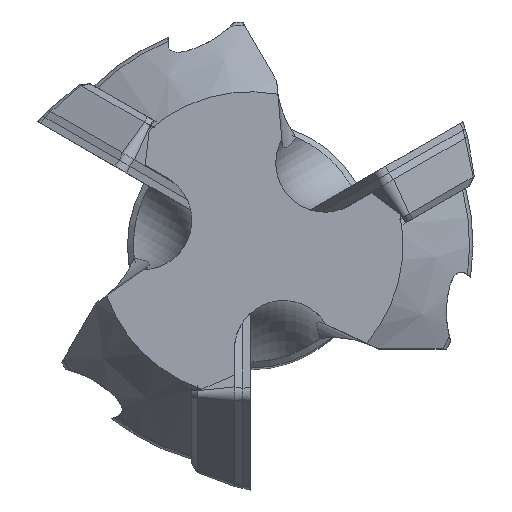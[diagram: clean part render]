
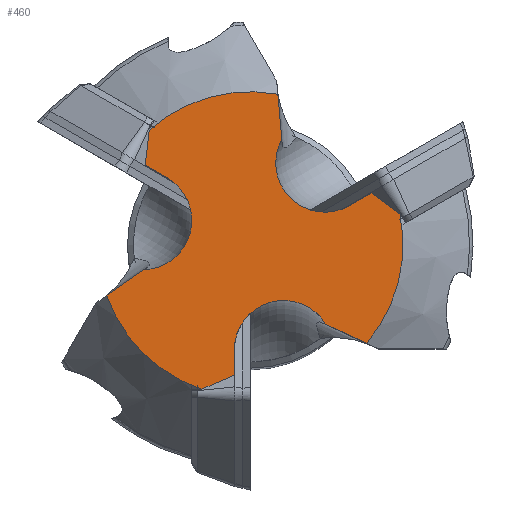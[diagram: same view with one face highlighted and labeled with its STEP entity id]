
A CAD part, top view. The second image highlights one B-rep face of the part: STEP entity #460.
In plain terms, the highlighted planar face has unit normal (0, 0, 1).
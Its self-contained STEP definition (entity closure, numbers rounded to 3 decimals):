
#98=ELLIPSE('',#2763,4.,4.);
#99=ELLIPSE('',#2764,4.,4.);
#100=ELLIPSE('',#2765,4.,4.);
#242=FACE_OUTER_BOUND('',#784,.T.);
#460=ADVANCED_FACE('',(#242),#594,.F.);
#594=PLANE('',#2766);
#660=CIRCLE('',#2730,12.416);
#666=CIRCLE('',#2741,12.416);
#672=CIRCLE('',#2752,12.416);
#784=EDGE_LOOP('',(#1492,#1493,#1494,#1495,#1496,#1497,#1498,#1499,#1500,
#1501,#1502,#1503,#1504,#1505,#1506));
#955=LINE('',#3793,#1121);
#958=LINE('',#3935,#1124);
#961=LINE('',#4080,#1127);
#963=LINE('',#4163,#1129);
#964=LINE('',#4167,#1130);
#965=LINE('',#4169,#1131);
#966=LINE('',#4172,#1132);
#967=LINE('',#4174,#1133);
#968=LINE('',#4177,#1134);
#1121=VECTOR('',#2975,1.);
#1124=VECTOR('',#3000,1.);
#1127=VECTOR('',#3025,1.);
#1129=VECTOR('',#3035,1.);
#1130=VECTOR('',#3038,1.);
#1131=VECTOR('',#3039,1.);
#1132=VECTOR('',#3042,1.);
#1133=VECTOR('',#3043,1.);
#1134=VECTOR('',#3046,1.);
#1492=ORIENTED_EDGE('',*,*,#2393,.T.);
#1493=ORIENTED_EDGE('',*,*,#2394,.T.);
#1494=ORIENTED_EDGE('',*,*,#2359,.T.);
#1495=ORIENTED_EDGE('',*,*,#2343,.F.);
#1496=ORIENTED_EDGE('',*,*,#2395,.T.);
#1497=ORIENTED_EDGE('',*,*,#2396,.T.);
#1498=ORIENTED_EDGE('',*,*,#2397,.T.);
#1499=ORIENTED_EDGE('',*,*,#2385,.T.);
#1500=ORIENTED_EDGE('',*,*,#2369,.F.);
#1501=ORIENTED_EDGE('',*,*,#2398,.T.);
#1502=ORIENTED_EDGE('',*,*,#2399,.T.);
#1503=ORIENTED_EDGE('',*,*,#2400,.T.);
#1504=ORIENTED_EDGE('',*,*,#2333,.T.);
#1505=ORIENTED_EDGE('',*,*,#2317,.F.);
#1506=ORIENTED_EDGE('',*,*,#2401,.T.);
#2052=VERTEX_POINT('',#3692);
#2053=VERTEX_POINT('',#3694);
#2065=VERTEX_POINT('',#3794);
#2074=VERTEX_POINT('',#3834);
#2075=VERTEX_POINT('',#3836);
#2087=VERTEX_POINT('',#3936);
#2096=VERTEX_POINT('',#3976);
#2097=VERTEX_POINT('',#3978);
#2109=VERTEX_POINT('',#4081);
#2112=VERTEX_POINT('',#4164);
#2113=VERTEX_POINT('',#4165);
#2114=VERTEX_POINT('',#4168);
#2115=VERTEX_POINT('',#4170);
#2116=VERTEX_POINT('',#4173);
#2117=VERTEX_POINT('',#4175);
#2317=EDGE_CURVE('',#2052,#2053,#660,.T.);
#2333=EDGE_CURVE('',#2065,#2053,#955,.T.);
#2343=EDGE_CURVE('',#2074,#2075,#666,.T.);
#2359=EDGE_CURVE('',#2087,#2075,#958,.T.);
#2369=EDGE_CURVE('',#2096,#2097,#672,.T.);
#2385=EDGE_CURVE('',#2109,#2097,#961,.T.);
#2393=EDGE_CURVE('',#2112,#2113,#963,.T.);
#2394=EDGE_CURVE('',#2113,#2087,#98,.T.);
#2395=EDGE_CURVE('',#2074,#2114,#964,.T.);
#2396=EDGE_CURVE('',#2114,#2115,#965,.T.);
#2397=EDGE_CURVE('',#2115,#2109,#99,.T.);
#2398=EDGE_CURVE('',#2096,#2116,#966,.T.);
#2399=EDGE_CURVE('',#2116,#2117,#967,.T.);
#2400=EDGE_CURVE('',#2117,#2065,#100,.T.);
#2401=EDGE_CURVE('',#2052,#2112,#968,.T.);
#2730=AXIS2_PLACEMENT_3D('',#3693,#2960,#2961);
#2741=AXIS2_PLACEMENT_3D('',#3835,#2985,#2986);
#2752=AXIS2_PLACEMENT_3D('',#3977,#3010,#3011);
#2763=AXIS2_PLACEMENT_3D('',#4166,#3036,#3037);
#2764=AXIS2_PLACEMENT_3D('',#4171,#3040,#3041);
#2765=AXIS2_PLACEMENT_3D('',#4176,#3044,#3045);
#2766=AXIS2_PLACEMENT_3D('',#4178,#3047,#3048);
#2960=DIRECTION('',(0.,0.,-1.));
#2961=DIRECTION('',(1.,0.,0.));
#2975=DIRECTION('',(-0.087,0.996,0.));
#2985=DIRECTION('',(0.,0.,-1.));
#2986=DIRECTION('',(1.,0.,0.));
#3000=DIRECTION('',(-0.819,-0.574,0.));
#3010=DIRECTION('',(0.,0.,-1.));
#3011=DIRECTION('',(1.,0.,0.));
#3025=DIRECTION('',(0.906,-0.423,0.));
#3035=DIRECTION('',(0.866,-0.5,0.));
#3036=DIRECTION('',(0.,0.,-1.));
#3037=DIRECTION('',(-0.866,0.5,0.));
#3038=DIRECTION('',(0.918,0.397,0.));
#3039=DIRECTION('',(0.,1.,0.));
#3040=DIRECTION('',(0.,0.,-1.));
#3041=DIRECTION('',(0.,-1.,0.));
#3042=DIRECTION('',(-0.803,0.596,0.));
#3043=DIRECTION('',(-0.866,-0.5,0.));
#3044=DIRECTION('',(0.,0.,-1.));
#3045=DIRECTION('',(0.866,0.5,0.));
#3046=DIRECTION('',(-0.115,-0.993,0.));
#3047=DIRECTION('',(0.,0.,-1.));
#3048=DIRECTION('',(1.,0.,0.));
#3692=CARTESIAN_POINT('',(-8.226,9.3,-1.5));
#3693=CARTESIAN_POINT('',(0.,0.,-1.5));
#3694=CARTESIAN_POINT('',(2.238,12.213,-1.5));
#3793=CARTESIAN_POINT('',(3.282,0.287,-1.5));
#3794=CARTESIAN_POINT('',(2.559,8.548,-1.5));
#3834=CARTESIAN_POINT('',(-3.941,-11.774,-1.5));
#3835=CARTESIAN_POINT('',(0.,0.,-1.5));
#3836=CARTESIAN_POINT('',(-11.696,-4.168,-1.5));
#3935=CARTESIAN_POINT('',(-1.889,2.698,-1.5));
#3936=CARTESIAN_POINT('',(-8.682,-2.058,-1.5));
#3976=CARTESIAN_POINT('',(12.167,2.474,-1.5));
#3977=CARTESIAN_POINT('',(0.,0.,-1.5));
#3978=CARTESIAN_POINT('',(9.457,-8.045,-1.5));
#4080=CARTESIAN_POINT('',(-1.392,-2.986,-1.5));
#4081=CARTESIAN_POINT('',(6.123,-6.49,-1.5));
#4163=CARTESIAN_POINT('',(0.65,1.126,-1.5));
#4164=CARTESIAN_POINT('',(-8.558,6.442,-1.5));
#4165=CARTESIAN_POINT('',(-6.763,5.406,-1.5));
#4166=CARTESIAN_POINT('',(-8.763,1.942,-1.5));
#4167=CARTESIAN_POINT('',(3.668,-8.484,-1.5));
#4168=CARTESIAN_POINT('',(-1.3,-10.632,-1.5));
#4169=CARTESIAN_POINT('',(-1.3,0.,-1.5));
#4170=CARTESIAN_POINT('',(-1.3,-8.56,-1.5));
#4171=CARTESIAN_POINT('',(2.7,-8.56,-1.5));
#4172=CARTESIAN_POINT('',(5.513,7.419,-1.5));
#4173=CARTESIAN_POINT('',(9.858,4.19,-1.5));
#4174=CARTESIAN_POINT('',(0.65,-1.126,-1.5));
#4175=CARTESIAN_POINT('',(8.063,3.154,-1.5));
#4176=CARTESIAN_POINT('',(6.063,6.618,-1.5));
#4177=CARTESIAN_POINT('',(-9.181,1.065,-1.5));
#4178=CARTESIAN_POINT('',(0.,0.,-1.5));
